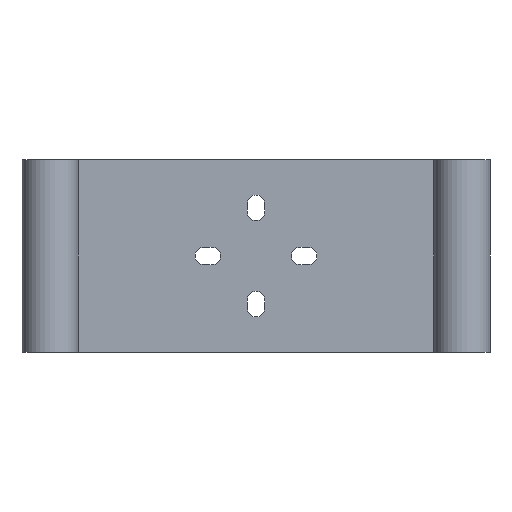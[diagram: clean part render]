
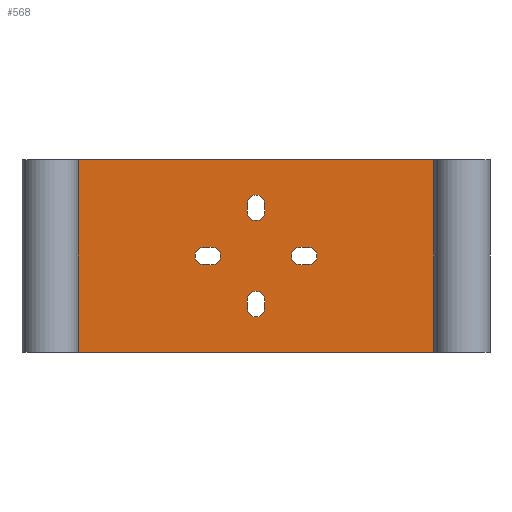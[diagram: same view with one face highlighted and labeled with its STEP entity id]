
A CAD part, front view. The second image highlights one B-rep face of the part: STEP entity #568.
In plain terms, the highlighted planar face has unit normal (0, -1, 0).
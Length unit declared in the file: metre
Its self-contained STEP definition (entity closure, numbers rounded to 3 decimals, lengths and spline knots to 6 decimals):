
#26=CIRCLE('',#612,0.0016);
#27=CIRCLE('',#613,0.0016);
#28=CIRCLE('',#614,0.0016);
#29=CIRCLE('',#615,0.0016);
#30=CIRCLE('',#616,0.0016);
#31=CIRCLE('',#617,0.0016);
#32=CIRCLE('',#618,0.0016);
#33=CIRCLE('',#619,0.0016);
#54=ORIENTED_EDGE('',*,*,#218,.F.);
#55=ORIENTED_EDGE('',*,*,#219,.F.);
#56=ORIENTED_EDGE('',*,*,#220,.T.);
#57=ORIENTED_EDGE('',*,*,#221,.F.);
#58=ORIENTED_EDGE('',*,*,#222,.F.);
#59=ORIENTED_EDGE('',*,*,#223,.F.);
#60=ORIENTED_EDGE('',*,*,#224,.T.);
#61=ORIENTED_EDGE('',*,*,#225,.F.);
#62=ORIENTED_EDGE('',*,*,#226,.F.);
#63=ORIENTED_EDGE('',*,*,#227,.F.);
#64=ORIENTED_EDGE('',*,*,#228,.T.);
#65=ORIENTED_EDGE('',*,*,#229,.T.);
#66=ORIENTED_EDGE('',*,*,#230,.F.);
#67=ORIENTED_EDGE('',*,*,#231,.T.);
#68=ORIENTED_EDGE('',*,*,#232,.F.);
#69=ORIENTED_EDGE('',*,*,#233,.F.);
#70=ORIENTED_EDGE('',*,*,#234,.F.);
#71=ORIENTED_EDGE('',*,*,#235,.T.);
#72=ORIENTED_EDGE('',*,*,#236,.F.);
#73=ORIENTED_EDGE('',*,*,#237,.F.);
#218=EDGE_CURVE('',#300,#301,#356,.T.);
#219=EDGE_CURVE('',#302,#300,#26,.T.);
#220=EDGE_CURVE('',#302,#303,#357,.T.);
#221=EDGE_CURVE('',#301,#303,#27,.T.);
#222=EDGE_CURVE('',#304,#305,#358,.T.);
#223=EDGE_CURVE('',#306,#304,#28,.T.);
#224=EDGE_CURVE('',#306,#307,#359,.T.);
#225=EDGE_CURVE('',#305,#307,#29,.T.);
#226=EDGE_CURVE('',#308,#309,#360,.T.);
#227=EDGE_CURVE('',#310,#308,#361,.T.);
#228=EDGE_CURVE('',#310,#311,#362,.T.);
#229=EDGE_CURVE('',#311,#309,#363,.T.);
#230=EDGE_CURVE('',#312,#313,#30,.T.);
#231=EDGE_CURVE('',#312,#314,#364,.T.);
#232=EDGE_CURVE('',#315,#314,#31,.T.);
#233=EDGE_CURVE('',#313,#315,#365,.T.);
#234=EDGE_CURVE('',#316,#317,#32,.T.);
#235=EDGE_CURVE('',#316,#318,#366,.T.);
#236=EDGE_CURVE('',#319,#318,#33,.T.);
#237=EDGE_CURVE('',#317,#319,#367,.T.);
#300=VERTEX_POINT('',#844);
#301=VERTEX_POINT('',#845);
#302=VERTEX_POINT('',#847);
#303=VERTEX_POINT('',#849);
#304=VERTEX_POINT('',#852);
#305=VERTEX_POINT('',#853);
#306=VERTEX_POINT('',#855);
#307=VERTEX_POINT('',#857);
#308=VERTEX_POINT('',#860);
#309=VERTEX_POINT('',#861);
#310=VERTEX_POINT('',#863);
#311=VERTEX_POINT('',#865);
#312=VERTEX_POINT('',#868);
#313=VERTEX_POINT('',#869);
#314=VERTEX_POINT('',#871);
#315=VERTEX_POINT('',#873);
#316=VERTEX_POINT('',#876);
#317=VERTEX_POINT('',#877);
#318=VERTEX_POINT('',#879);
#319=VERTEX_POINT('',#881);
#356=LINE('',#843,#410);
#357=LINE('',#848,#411);
#358=LINE('',#851,#412);
#359=LINE('',#856,#413);
#360=LINE('',#859,#414);
#361=LINE('',#862,#415);
#362=LINE('',#864,#416);
#363=LINE('',#866,#417);
#364=LINE('',#870,#418);
#365=LINE('',#874,#419);
#366=LINE('',#878,#420);
#367=LINE('',#882,#421);
#410=VECTOR('',#673,1.);
#411=VECTOR('',#676,1.);
#412=VECTOR('',#679,1.);
#413=VECTOR('',#682,1.);
#414=VECTOR('',#685,1.);
#415=VECTOR('',#686,1.);
#416=VECTOR('',#687,1.);
#417=VECTOR('',#688,1.);
#418=VECTOR('',#691,1.);
#419=VECTOR('',#694,1.);
#420=VECTOR('',#697,1.);
#421=VECTOR('',#700,1.);
#464=EDGE_LOOP('',(#54,#55,#56,#57));
#465=EDGE_LOOP('',(#58,#59,#60,#61));
#466=EDGE_LOOP('',(#62,#63,#64,#65));
#467=EDGE_LOOP('',(#66,#67,#68,#69));
#468=EDGE_LOOP('',(#70,#71,#72,#73));
#508=FACE_BOUND('',#464,.T.);
#509=FACE_BOUND('',#465,.T.);
#510=FACE_BOUND('',#466,.T.);
#511=FACE_BOUND('',#467,.T.);
#512=FACE_BOUND('',#468,.T.);
#552=PLANE('',#611);
#568=ADVANCED_FACE('',(#508,#509,#510,#511,#512),#552,.T.);
#611=AXIS2_PLACEMENT_3D('',#842,#671,#672);
#612=AXIS2_PLACEMENT_3D('',#846,#674,#675);
#613=AXIS2_PLACEMENT_3D('',#850,#677,#678);
#614=AXIS2_PLACEMENT_3D('',#854,#680,#681);
#615=AXIS2_PLACEMENT_3D('',#858,#683,#684);
#616=AXIS2_PLACEMENT_3D('',#867,#689,#690);
#617=AXIS2_PLACEMENT_3D('',#872,#692,#693);
#618=AXIS2_PLACEMENT_3D('',#875,#695,#696);
#619=AXIS2_PLACEMENT_3D('',#880,#698,#699);
#671=DIRECTION('',(0.,-1.,0.));
#672=DIRECTION('',(1.,0.,0.));
#673=DIRECTION('',(1.,0.,0.));
#674=DIRECTION('',(0.,-1.,0.));
#675=DIRECTION('',(1.,0.,0.));
#676=DIRECTION('',(1.,0.,0.));
#677=DIRECTION('',(0.,-1.,0.));
#678=DIRECTION('',(1.,0.,0.));
#679=DIRECTION('',(0.,0.,1.));
#680=DIRECTION('',(0.,-1.,0.));
#681=DIRECTION('',(1.,0.,0.));
#682=DIRECTION('',(0.,0.,1.));
#683=DIRECTION('',(0.,-1.,0.));
#684=DIRECTION('',(1.,0.,0.));
#685=DIRECTION('',(1.,0.,0.));
#686=DIRECTION('',(0.,0.,1.));
#687=DIRECTION('',(1.,0.,0.));
#688=DIRECTION('',(0.,0.,1.));
#689=DIRECTION('',(0.,-1.,0.));
#690=DIRECTION('',(1.,0.,0.));
#691=DIRECTION('',(-1.,0.,0.));
#692=DIRECTION('',(0.,-1.,0.));
#693=DIRECTION('',(1.,0.,0.));
#694=DIRECTION('',(-1.,0.,0.));
#695=DIRECTION('',(0.,-1.,0.));
#696=DIRECTION('',(1.,0.,0.));
#697=DIRECTION('',(0.,0.,-1.));
#698=DIRECTION('',(0.,-1.,0.));
#699=DIRECTION('',(1.,0.,0.));
#700=DIRECTION('',(0.,0.,-1.));
#842=CARTESIAN_POINT('',(0.,-0.001,-0.035));
#843=CARTESIAN_POINT('',(0.,-0.001,-0.0191));
#844=CARTESIAN_POINT('',(0.008,-0.001,-0.0191));
#845=CARTESIAN_POINT('',(0.0095,-0.001,-0.0191));
#846=CARTESIAN_POINT('',(0.008,-0.001,-0.0175));
#847=CARTESIAN_POINT('',(0.008,-0.001,-0.0159));
#848=CARTESIAN_POINT('',(0.,-0.001,-0.0159));
#849=CARTESIAN_POINT('',(0.0095,-0.001,-0.0159));
#850=CARTESIAN_POINT('',(0.0095,-0.001,-0.0175));
#851=CARTESIAN_POINT('',(0.0016,-0.001,-0.035));
#852=CARTESIAN_POINT('',(0.0016,-0.001,-0.0095));
#853=CARTESIAN_POINT('',(0.0016,-0.001,-0.008));
#854=CARTESIAN_POINT('',(0.,-0.001,-0.0095));
#855=CARTESIAN_POINT('',(-0.0016,-0.001,-0.0095));
#856=CARTESIAN_POINT('',(-0.0016,-0.001,-0.035));
#857=CARTESIAN_POINT('',(-0.0016,-0.001,-0.008));
#858=CARTESIAN_POINT('',(0.,-0.001,-0.008));
#859=CARTESIAN_POINT('',(0.,-0.001,0.));
#860=CARTESIAN_POINT('',(-0.0324,-0.001,0.));
#861=CARTESIAN_POINT('',(0.0324,-0.001,0.));
#862=CARTESIAN_POINT('',(-0.0324,-0.001,-0.035));
#863=CARTESIAN_POINT('',(-0.0324,-0.001,-0.035));
#864=CARTESIAN_POINT('',(0.,-0.001,-0.035));
#865=CARTESIAN_POINT('',(0.0324,-0.001,-0.035));
#866=CARTESIAN_POINT('',(0.0324,-0.001,-0.035));
#867=CARTESIAN_POINT('',(-0.008,-0.001,-0.0175));
#868=CARTESIAN_POINT('',(-0.008,-0.001,-0.0191));
#869=CARTESIAN_POINT('',(-0.008,-0.001,-0.0159));
#870=CARTESIAN_POINT('',(0.,-0.001,-0.0191));
#871=CARTESIAN_POINT('',(-0.0095,-0.001,-0.0191));
#872=CARTESIAN_POINT('',(-0.0095,-0.001,-0.0175));
#873=CARTESIAN_POINT('',(-0.0095,-0.001,-0.0159));
#874=CARTESIAN_POINT('',(0.,-0.001,-0.0159));
#875=CARTESIAN_POINT('',(0.,-0.001,-0.0255));
#876=CARTESIAN_POINT('',(0.0016,-0.001,-0.0255));
#877=CARTESIAN_POINT('',(-0.0016,-0.001,-0.0255));
#878=CARTESIAN_POINT('',(0.0016,-0.001,-0.035));
#879=CARTESIAN_POINT('',(0.0016,-0.001,-0.027));
#880=CARTESIAN_POINT('',(0.,-0.001,-0.027));
#881=CARTESIAN_POINT('',(-0.0016,-0.001,-0.027));
#882=CARTESIAN_POINT('',(-0.0016,-0.001,-0.035));
